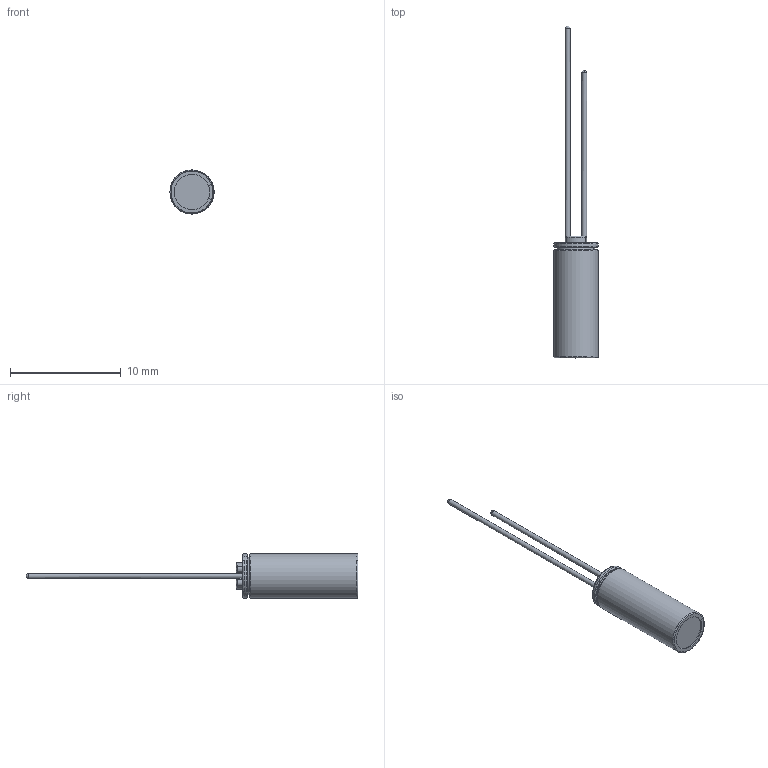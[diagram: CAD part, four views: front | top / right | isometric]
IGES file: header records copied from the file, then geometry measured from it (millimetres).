
Start section: JAMA-IS VERSION  1.0
Bounding box: 3.99 x 30 x 4 mm (x, y, z)
Surface area: 486.9 mm2 (no closed solid volume)
Topology: 0 solids, 0 shells, 72 faces, 1335 edges, 1324 vertices
Faces by surface type: bspline 72
